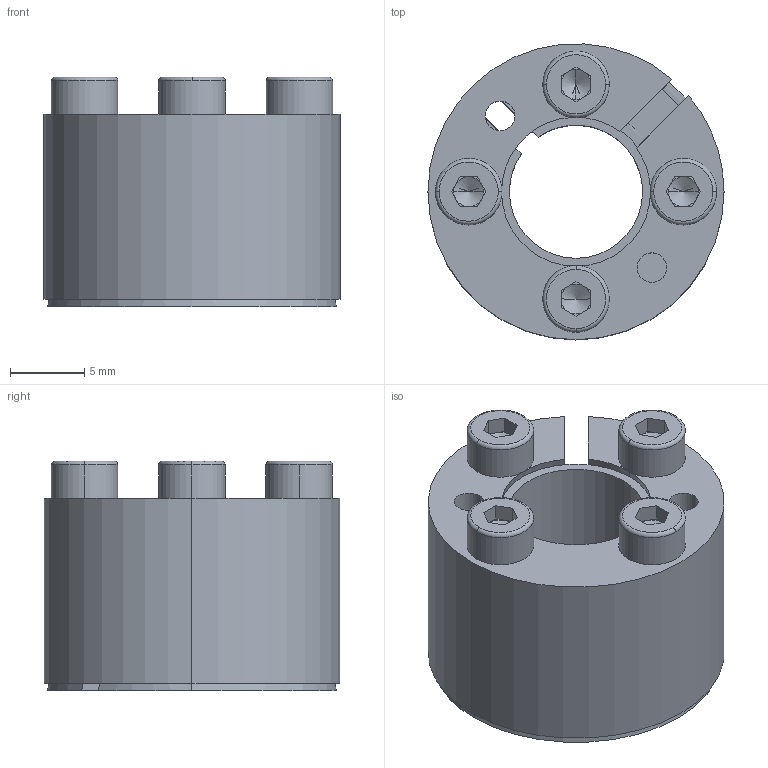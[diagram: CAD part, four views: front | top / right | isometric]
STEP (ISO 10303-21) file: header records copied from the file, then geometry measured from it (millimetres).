
FILE_DESCRIPTION (( 'STEP AP214' ), '1' );
FILE_NAME ('CONEX-K-9x20.step', '2015-09-15T13:10:24', ( '' ), ( '' ), 'SwSTEP 2.0', 'SolidWorks 2013', '' );
FILE_SCHEMA (( 'AUTOMOTIVE_DESIGN' ));
Length unit declared in the file: millimetre
Products named in the file (1): CONEX-K-9x20
Bounding box: 20 x 19.98 x 15.51 mm (x, y, z)
Volume: 2609.3 mm3; surface area: 3776.1 mm2
Topology: 5 solids, 5 shells, 162 faces, 406 edges, 252 vertices
Faces by surface type: plane 70, cylinder 48, cone 28, torus 16
Entity records: 7162 total; most frequent: CARTESIAN_POINT 1324, DIRECTION 884, ORIENTED_EDGE 796, EDGE_CURVE 398, AXIS2_PLACEMENT_3D 350, VERTEX_POINT 252, EDGE_LOOP 190, CIRCLE 187
